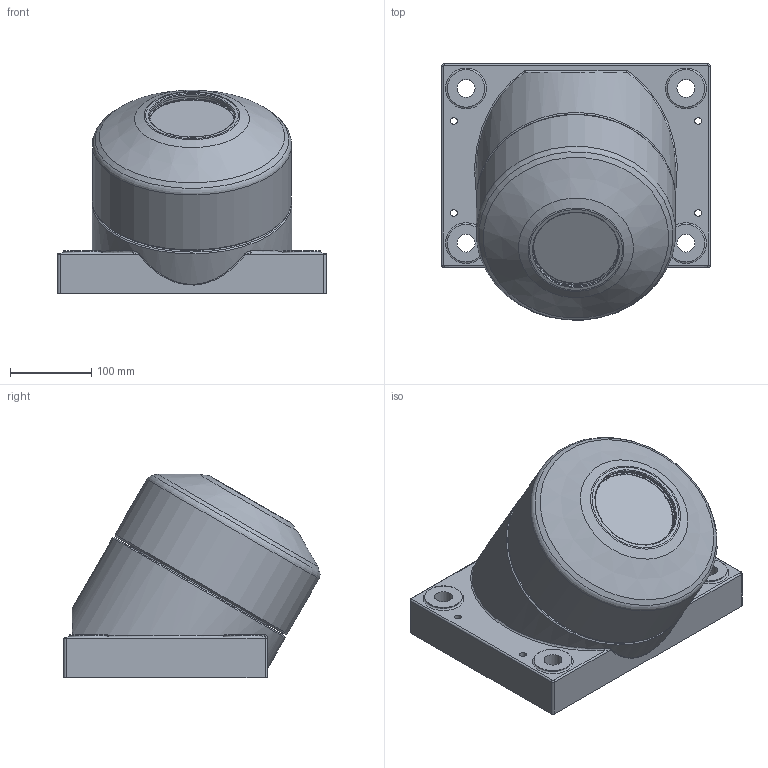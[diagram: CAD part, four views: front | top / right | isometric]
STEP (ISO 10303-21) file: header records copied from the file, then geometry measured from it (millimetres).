
FILE_DESCRIPTION(/* description */ (''),/* implementation_level */ '2;1');
FILE_NAME(/* name */ 'Z:\34-Tei\01-web 3Dデータ\SW車輪\\X2\514330C730FC30BF\X0\\SW-250-BS-I.stp',/* time_stamp */ '2015-03-18T13:28:28+09:00',/* author */ ('yamaki'),/* organization */ (''),/* preprocessor_version */ 'ST-DEVELOPER v15.6',/* originating_system */ 'Autodesk Inventor 2015',/* authorisation */ '');
FILE_SCHEMA (('AUTOMOTIVE_DESIGN { 1 0 10303 214 3 1 1 }'));
Length unit declared in the file: centimetre
Products named in the file (1): SW-250-BS-I
Bounding box: 330 x 314.58 x 249.88 mm (x, y, z)
Volume: 11238582.4 mm3; surface area: 561981.7 mm2
Topology: 1 solids, 5 shells, 160 faces, 342 edges, 216 vertices
Faces by surface type: cylinder 60, plane 50, cone 23, torus 18, bspline 9
Full cylindrical faces by diameter (mm): 8 x2, 8.376 x4, 22 x4, 45 x2, 46 x4, 55 x1, 61 x2, 64 x1, 73 x1, 80 x1, 84 x2, 100 x4, 100.1 x1, 102 x1, 104 x1, 105 x2, 109 x1, 120 x1, 195 x1, 210 x2, 211 x1, 212 x1, 245 x2
Entity records: 4375 total; most frequent: CARTESIAN_POINT 1058, DIRECTION 687, ORIENTED_EDGE 484, AXIS2_PLACEMENT_3D 315, EDGE_LOOP 284, EDGE_CURVE 242, VERTEX_POINT 194, STYLED_ITEM 160
